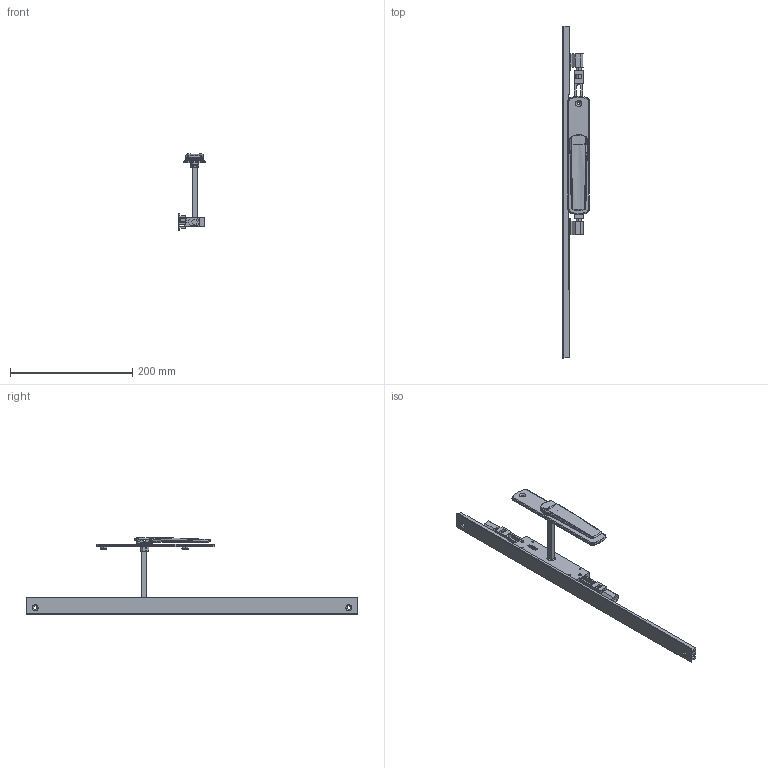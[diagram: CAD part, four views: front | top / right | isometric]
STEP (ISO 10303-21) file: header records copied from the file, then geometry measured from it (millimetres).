
FILE_DESCRIPTION (( 'STEP AP214' ), '1' );
FILE_NAME ('TPL-W-EU-607-L 06Nov2024.STEP', '2024-11-27T01:26:58', ( '' ), ( '' ), 'SwSTEP 2.0', 'SolidWorks 2023', '' );
FILE_SCHEMA (( 'AUTOMOTIVE_DESIGN' ));
Length unit declared in the file: millimetre
Products named in the file (18): Copy of LKC-516 Escutcheon plate unkeyed 195mm long zinc - simplified^Copy of TPGen2 handle non-keyed short zinc - simplified_TPL-W-EU-107 04Nov2024; TPL-W-EU-607-L 06Nov2024; LKC-531 Lock twinpoint transmission rod wood system^TPL-W-EU-107 04Nov2024_Standard Range 2891.7mm; Copy of LKC-586 Spindle square 8mm with M4 hole^Copy of TPGen2 handle non-keyed short zinc - simplified_TPL-W-EU-107 04Nov2024_100mm; Copy of Adapter DnF - simplfied^TPL-W-EU-107 04Nov2024_26mm backset; Copy of LKC-505 Swing handle zinc - simplified^Copy of TPGen2 handle non-keyed short zinc - simplified_TPL-W-EU-107 04Nov2024; Bolt(2)^TPL-W-EU-107 04Nov2024; TPLGen2 push rod - simplified^Copy of TPLGen2 lock body non-keyed assembly_TPL-W-EU-107 04Nov2024_Female thread M10; Copy of LKC-585 Rotator body zinc^Copy of TPGen2 handle non-keyed short zinc - simplified_TPL-W-EU-107 04Nov2024; Copy of TPGen2 handle non-keyed short zinc - simplified^TPL-W-EU-107 04Nov2024_Vertical; Copy of COV-112-A Cover A suit TPLGen2 standard range^TPL-W-EU-107 04Nov2024_1335mm; COV-112-B Cover B suit TPLGen2 standard range^TPL-W-EU-107 04Nov2024_2870mm; Copy of Copy of LKC-531 Lock twinpoint transmission rod wood system^TPL-W-EU-107 04Nov2024_Standard Range 2891.7mm; Copy of TPLGen2 lock body non-keyed^Copy of TPLGen2 lock body non-keyed assembly_TPL-W-EU-107 04Nov2024; Copy of LKC-584 Pivot body zinc - simplified^Copy of TPGen2 handle non-keyed short zinc - simplified_TPL-W-EU-107 04Nov2024; Copy of TPLGen2 lock body non-keyed assembly^TPL-W-EU-107 04Nov2024_Bolts extended; Copy of Adapter CnE - simplfied^TPL-W-EU-107 04Nov2024_26mm backset; Copy of COV-112-C Cover C TPLGen2 Lock body^TPL-W-EU-107 04Nov2024
Assembly tree (15 placements, depth 3):
  TPL-W-EU-607-L 06Nov2024
    Copy of TPLGen2 lock body non-keyed assembly^TPL-W-EU-107 04Nov2024_Bolts extended
      Copy of TPLGen2 lock body non-keyed^Copy of TPLGen2 lock body non-keyed assembly_TPL-W-EU-107 04Nov2024
      TPLGen2 push rod - simplified^Copy of TPLGen2 lock body non-keyed assembly_TPL-W-EU-107 04Nov2024_Female thread M10  x2
    Copy of TPGen2 handle non-keyed short zinc - simplified^TPL-W-EU-107 04Nov2024_Vertical
      Copy of LKC-516 Escutcheon plate unkeyed 195mm long zinc - simplified^Copy of TPGen2 handle non-keyed short zinc - simplified_TPL-W-EU-107 04Nov2024
      Copy of LKC-505 Swing handle zinc - simplified^Copy of TPGen2 handle non-keyed short zinc - simplified_TPL-W-EU-107 04Nov2024
      Copy of LKC-585 Rotator body zinc^Copy of TPGen2 handle non-keyed short zinc - simplified_TPL-W-EU-107 04Nov2024
      Copy of LKC-586 Spindle square 8mm with M4 hole^Copy of TPGen2 handle non-keyed short zinc - simplified_TPL-W-EU-107 04Nov2024_100mm
      Copy of LKC-584 Pivot body zinc - simplified^Copy of TPGen2 handle non-keyed short zinc - simplified_TPL-W-EU-107 04Nov2024
    Copy of COV-112-C Cover C TPLGen2 Lock body^TPL-W-EU-107 04Nov2024
    Copy of Copy of LKC-531 Lock twinpoint transmission rod wood system^TPL-W-EU-107 04Nov2024_Standard Range 2891.7mm
    LKC-531 Lock twinpoint transmission rod wood system^TPL-W-EU-107 04Nov2024_Standard Range 2891.7mm
    Copy of Adapter DnF - simplfied^TPL-W-EU-107 04Nov2024_26mm backset
    Copy of Adapter CnE - simplfied^TPL-W-EU-107 04Nov2024_26mm backset
  Bolt(2)^TPL-W-EU-107 04Nov2024
  Copy of COV-112-A Cover A suit TPLGen2 standard range^TPL-W-EU-107 04Nov2024_1335mm
  COV-112-B Cover B suit TPLGen2 standard range^TPL-W-EU-107 04Nov2024_2870mm
Bounding box: 43.5 x 544 x 125.06 mm (x, y, z)
Volume: 211802.8 mm3; surface area: 121015.4 mm2
Topology: 13 solids, 13 shells, 851 faces, 2100 edges, 1304 vertices
Faces by surface type: plane 304, bspline 241, cylinder 186, cone 66, torus 46, sphere 8
Entity records: 30683 total; most frequent: CARTESIAN_POINT 12559, ORIENTED_EDGE 4008, DIRECTION 3198, EDGE_CURVE 2004, VERTEX_POINT 1244, AXIS2_PLACEMENT_3D 1157, EDGE_LOOP 898, LINE 884
